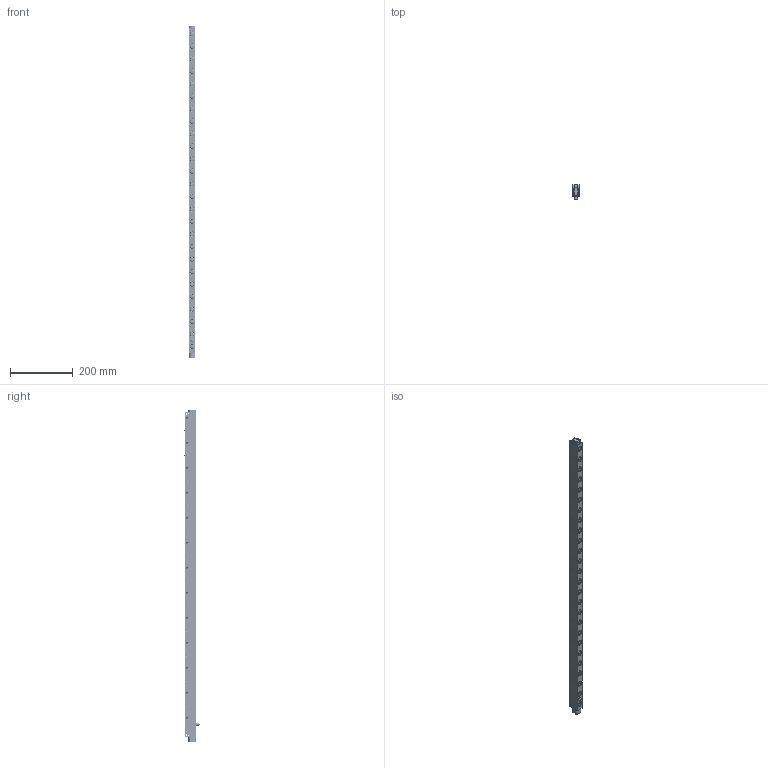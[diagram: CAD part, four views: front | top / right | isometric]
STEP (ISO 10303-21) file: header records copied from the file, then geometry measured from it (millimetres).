
FILE_DESCRIPTION(/* description */ (''),/* implementation_level */ '2;1');
FILE_NAME(/* name */ 'S:\EASCN Vault\Designs\Standard Part\DIE LIFTERS\EHR\EHR- 3D step\EHR22 - 3D step complete serie\EHR22-26.stp',/* time_stamp */ '2019-07-30T16:54:37+08:00',/* author */ ('yue.yang'),/* organization */ (''),/* preprocessor_version */ 'ST-DEVELOPER v17',/* originating_system */ 'Autodesk Inventor 2019',/* authorisation */ '');
FILE_SCHEMA (('AUTOMOTIVE_DESIGN { 1 0 10303 214 3 1 1 }'));
Products named in the file (1): EHR22-26_Shrinkwrap_1
Bounding box: 21.8 x 48.05 x 1062 mm (x, y, z)
Volume: 647333.7 mm3; surface area: 246536.8 mm2
Topology: 8 solids, 8 shells, 1564 faces, 4616 edges, 3176 vertices
Faces by surface type: cylinder 534, plane 405, cone 288, torus 284, sphere 53
Full cylindrical faces by diameter (mm): 3 x9, 3.2 x8, 4 x8, 5 x104, 6 x35, 8.566 x1, 10 x3, 11 x26, 12.5 x52, 13.4 x26, 13.8 x26, 15.95 x52, 16 x76
Entity records: 58844 total; most frequent: CARTESIAN_POINT 13123, DIRECTION 10213, ORIENTED_EDGE 9164, EDGE_CURVE 4582, AXIS2_PLACEMENT_3D 4564, VERTEX_POINT 3176, CIRCLE 2999, EDGE_LOOP 1904
